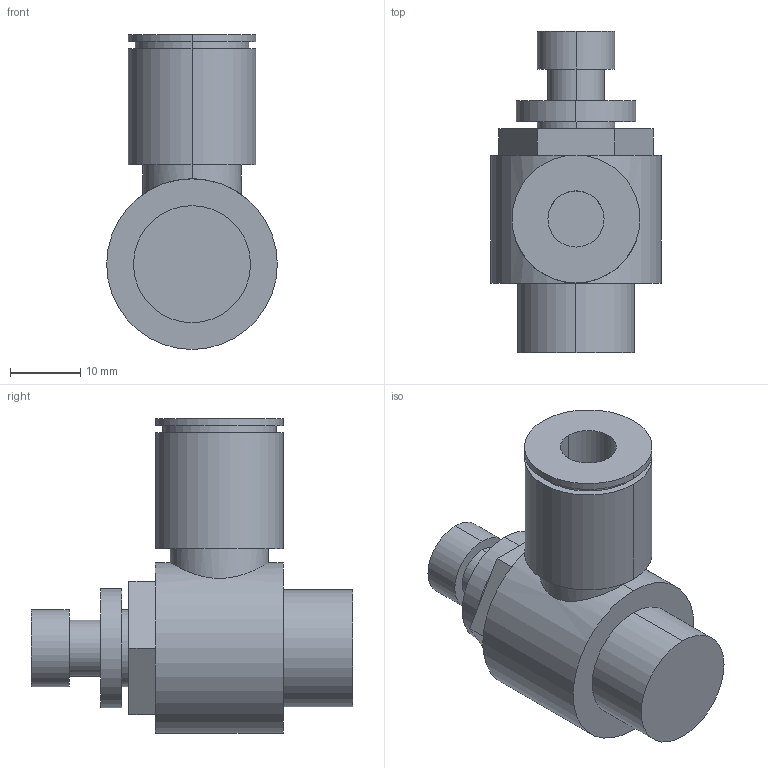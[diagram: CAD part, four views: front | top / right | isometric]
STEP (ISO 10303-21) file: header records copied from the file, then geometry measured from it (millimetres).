
FILE_DESCRIPTION( ( '' ), '1' );
FILE_NAME( 'G:/SMC狟婥/AS3201F-03-08SA.stp', '2023-03-07T03:49:53', ( '' ), ( '' ), ' ', ' ', ' ' );
FILE_SCHEMA( ( 'CONFIG_CONTROL_DESIGN' ) );
Length unit declared in the file: millimetre
Products named in the file (1): 1
Bounding box: 24.3 x 45.8 x 44.85 mm (x, y, z)
Volume: 17533.6 mm3; surface area: 5901.2 mm2
Topology: 1 solids, 1 shells, 41 faces, 86 edges, 57 vertices
Faces by surface type: cylinder 22, plane 19
Entity records: 1219 total; most frequent: CARTESIAN_POINT 252, DIRECTION 209, ORIENTED_EDGE 172, EDGE_CURVE 86, AXIS2_PLACEMENT_3D 84, VERTEX_POINT 57, EDGE_LOOP 51, CIRCLE 42
